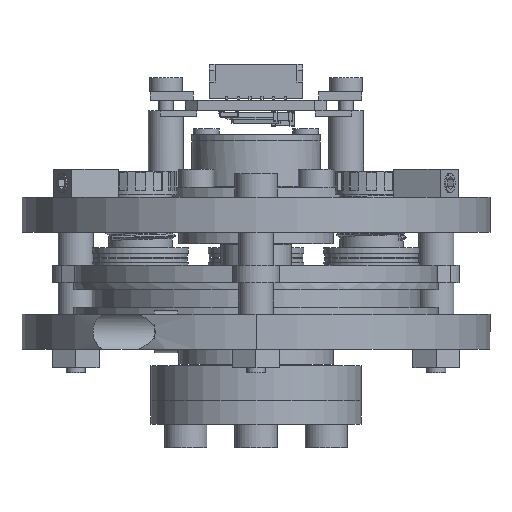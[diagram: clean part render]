
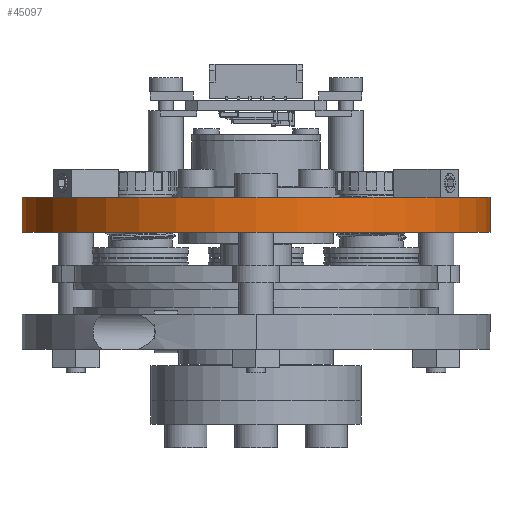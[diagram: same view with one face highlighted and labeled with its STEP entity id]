
A CAD part, front view. The second image highlights one B-rep face of the part: STEP entity #45097.
In plain terms, the highlighted cylindrical face has radius 20 mm (diameter 40 mm), a full revolution.
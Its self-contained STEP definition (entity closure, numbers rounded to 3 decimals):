
#45097 = ADVANCED_FACE('',(#45098),#45111,.T.);
#45098 = FACE_BOUND('',#45099,.T.);
#45099 = EDGE_LOOP('',(#45100,#45134,#45157,#45184));
#45100 = ORIENTED_EDGE('',*,*,#45101,.F.);
#45101 = EDGE_CURVE('',#45102,#45102,#45104,.T.);
#45102 = VERTEX_POINT('',#45103);
#45103 = CARTESIAN_POINT('',(20.,0.,10.));
#45104 = SURFACE_CURVE('',#45105,(#45110,#45122),.PCURVE_S1.);
#45105 = CIRCLE('',#45106,20.);
#45106 = AXIS2_PLACEMENT_3D('',#45107,#45108,#45109);
#45107 = CARTESIAN_POINT('',(0.,0.,10.));
#45108 = DIRECTION('',(0.,0.,1.));
#45109 = DIRECTION('',(1.,0.,-0.));
#45110 = PCURVE('',#45111,#45116);
#45111 = CYLINDRICAL_SURFACE('',#45112,20.);
#45112 = AXIS2_PLACEMENT_3D('',#45113,#45114,#45115);
#45113 = CARTESIAN_POINT('',(0.,0.,7.));
#45114 = DIRECTION('',(0.,0.,1.));
#45115 = DIRECTION('',(1.,0.,-0.));
#45116 = DEFINITIONAL_REPRESENTATION('',(#45117),#45121);
#45117 = LINE('',#45118,#45119);
#45118 = CARTESIAN_POINT('',(0.,3.));
#45119 = VECTOR('',#45120,1.);
#45120 = DIRECTION('',(1.,0.));
#45121 = ( GEOMETRIC_REPRESENTATION_CONTEXT(2) 
PARAMETRIC_REPRESENTATION_CONTEXT() REPRESENTATION_CONTEXT('2D SPACE',''
  ) );
#45122 = PCURVE('',#45123,#45128);
#45123 = PLANE('',#45124);
#45124 = AXIS2_PLACEMENT_3D('',#45125,#45126,#45127);
#45125 = CARTESIAN_POINT('',(0.,0.,10.));
#45126 = DIRECTION('',(0.,0.,1.));
#45127 = DIRECTION('',(1.,0.,-0.));
#45128 = DEFINITIONAL_REPRESENTATION('',(#45129),#45133);
#45129 = CIRCLE('',#45130,20.);
#45130 = AXIS2_PLACEMENT_2D('',#45131,#45132);
#45131 = CARTESIAN_POINT('',(0.,0.));
#45132 = DIRECTION('',(1.,0.));
#45133 = ( GEOMETRIC_REPRESENTATION_CONTEXT(2) 
PARAMETRIC_REPRESENTATION_CONTEXT() REPRESENTATION_CONTEXT('2D SPACE',''
  ) );
#45134 = ORIENTED_EDGE('',*,*,#45135,.F.);
#45135 = EDGE_CURVE('',#45136,#45102,#45138,.T.);
#45136 = VERTEX_POINT('',#45137);
#45137 = CARTESIAN_POINT('',(20.,0.,7.));
#45138 = SEAM_CURVE('',#45139,(#45143,#45150),.PCURVE_S1.);
#45139 = LINE('',#45140,#45141);
#45140 = CARTESIAN_POINT('',(20.,0.,7.));
#45141 = VECTOR('',#45142,1.);
#45142 = DIRECTION('',(0.,0.,1.));
#45143 = PCURVE('',#45111,#45144);
#45144 = DEFINITIONAL_REPRESENTATION('',(#45145),#45149);
#45145 = LINE('',#45146,#45147);
#45146 = CARTESIAN_POINT('',(6.283,-0.));
#45147 = VECTOR('',#45148,1.);
#45148 = DIRECTION('',(0.,1.));
#45149 = ( GEOMETRIC_REPRESENTATION_CONTEXT(2) 
PARAMETRIC_REPRESENTATION_CONTEXT() REPRESENTATION_CONTEXT('2D SPACE',''
  ) );
#45150 = PCURVE('',#45111,#45151);
#45151 = DEFINITIONAL_REPRESENTATION('',(#45152),#45156);
#45152 = LINE('',#45153,#45154);
#45153 = CARTESIAN_POINT('',(0.,-0.));
#45154 = VECTOR('',#45155,1.);
#45155 = DIRECTION('',(0.,1.));
#45156 = ( GEOMETRIC_REPRESENTATION_CONTEXT(2) 
PARAMETRIC_REPRESENTATION_CONTEXT() REPRESENTATION_CONTEXT('2D SPACE',''
  ) );
#45157 = ORIENTED_EDGE('',*,*,#45158,.T.);
#45158 = EDGE_CURVE('',#45136,#45136,#45159,.T.);
#45159 = SURFACE_CURVE('',#45160,(#45165,#45172),.PCURVE_S1.);
#45160 = CIRCLE('',#45161,20.);
#45161 = AXIS2_PLACEMENT_3D('',#45162,#45163,#45164);
#45162 = CARTESIAN_POINT('',(0.,0.,7.));
#45163 = DIRECTION('',(0.,0.,1.));
#45164 = DIRECTION('',(1.,0.,-0.));
#45165 = PCURVE('',#45111,#45166);
#45166 = DEFINITIONAL_REPRESENTATION('',(#45167),#45171);
#45167 = LINE('',#45168,#45169);
#45168 = CARTESIAN_POINT('',(0.,0.));
#45169 = VECTOR('',#45170,1.);
#45170 = DIRECTION('',(1.,0.));
#45171 = ( GEOMETRIC_REPRESENTATION_CONTEXT(2) 
PARAMETRIC_REPRESENTATION_CONTEXT() REPRESENTATION_CONTEXT('2D SPACE',''
  ) );
#45172 = PCURVE('',#45173,#45178);
#45173 = PLANE('',#45174);
#45174 = AXIS2_PLACEMENT_3D('',#45175,#45176,#45177);
#45175 = CARTESIAN_POINT('',(0.,0.,7.));
#45176 = DIRECTION('',(0.,0.,1.));
#45177 = DIRECTION('',(1.,0.,-0.));
#45178 = DEFINITIONAL_REPRESENTATION('',(#45179),#45183);
#45179 = CIRCLE('',#45180,20.);
#45180 = AXIS2_PLACEMENT_2D('',#45181,#45182);
#45181 = CARTESIAN_POINT('',(0.,0.));
#45182 = DIRECTION('',(1.,0.));
#45183 = ( GEOMETRIC_REPRESENTATION_CONTEXT(2) 
PARAMETRIC_REPRESENTATION_CONTEXT() REPRESENTATION_CONTEXT('2D SPACE',''
  ) );
#45184 = ORIENTED_EDGE('',*,*,#45135,.T.);
